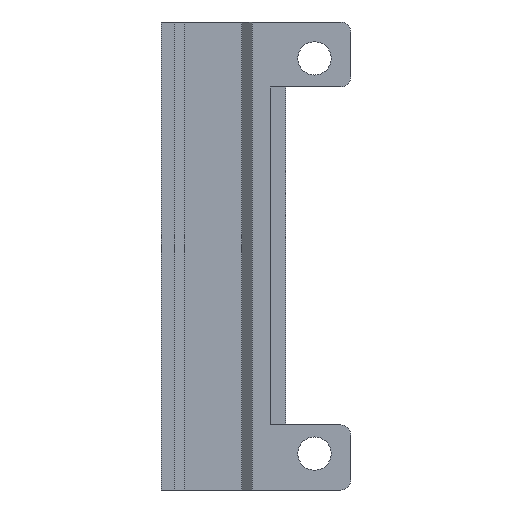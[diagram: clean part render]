
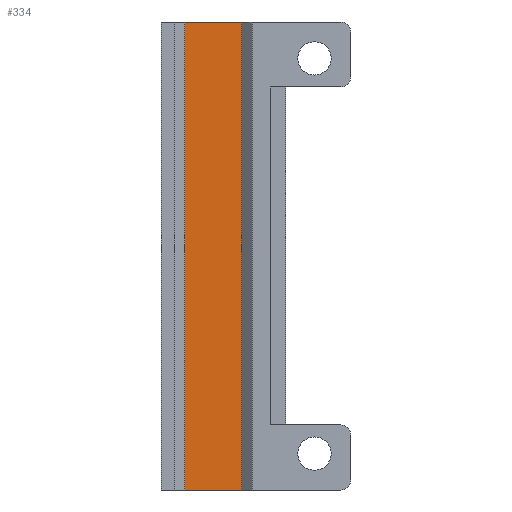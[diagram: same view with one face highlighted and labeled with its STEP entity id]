
A CAD part, front view. The second image highlights one B-rep face of the part: STEP entity #334.
In plain terms, the highlighted planar face has unit normal (0, -1, 0).
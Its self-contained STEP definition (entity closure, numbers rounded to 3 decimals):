
#3 = EDGE_LOOP ( 'NONE', ( #259, #427, #369, #924 ) ) ;
#24 = VECTOR ( 'NONE', #490, 1000. ) ;
#165 = DIRECTION ( 'NONE',  ( 1., 0., 0. ) ) ;
#210 = AXIS2_PLACEMENT_3D ( 'NONE', #946, #446, #1120 ) ;
#226 = CARTESIAN_POINT ( 'NONE',  ( -2.75, 4., 0. ) ) ;
#259 = ORIENTED_EDGE ( 'NONE', *, *, #327, .T. ) ;
#327 = EDGE_CURVE ( 'NONE', #1075, #1088, #661, .T. ) ;
#334 = ADVANCED_FACE ( 'NONE', ( #557 ), #767, .F. ) ;
#359 = LINE ( 'NONE', #746, #501 ) ;
#369 = ORIENTED_EDGE ( 'NONE', *, *, #588, .F. ) ;
#383 = EDGE_CURVE ( 'NONE', #403, #1075, #359, .T. ) ;
#403 = VERTEX_POINT ( 'NONE', #1128 ) ;
#427 = ORIENTED_EDGE ( 'NONE', *, *, #919, .F. ) ;
#446 = DIRECTION ( 'NONE',  ( 0., 1., 0. ) ) ;
#461 = DIRECTION ( 'NONE',  ( 0., 0., -1. ) ) ;
#490 = DIRECTION ( 'NONE',  ( 1., 0., 0. ) ) ;
#501 = VECTOR ( 'NONE', #461, 1000. ) ;
#557 = FACE_OUTER_BOUND ( 'NONE', #3, .T. ) ;
#588 = EDGE_CURVE ( 'NONE', #403, #1008, #1176, .T. ) ;
#590 = DIRECTION ( 'NONE',  ( 0., 0., -1. ) ) ;
#603 = VECTOR ( 'NONE', #165, 1000. ) ;
#661 = LINE ( 'NONE', #951, #603 ) ;
#668 = LINE ( 'NONE', #674, #1228 ) ;
#674 = CARTESIAN_POINT ( 'NONE',  ( 2.75, 4., 45. ) ) ;
#732 = CARTESIAN_POINT ( 'NONE',  ( 2.75, 4., 0. ) ) ;
#746 = CARTESIAN_POINT ( 'NONE',  ( -2.75, 4., 45. ) ) ;
#767 = PLANE ( 'NONE',  #210 ) ;
#785 = CARTESIAN_POINT ( 'NONE',  ( 2.75, 4., 45. ) ) ;
#919 = EDGE_CURVE ( 'NONE', #1008, #1088, #668, .T. ) ;
#924 = ORIENTED_EDGE ( 'NONE', *, *, #383, .T. ) ;
#946 = CARTESIAN_POINT ( 'NONE',  ( -2.75, 4., 45. ) ) ;
#951 = CARTESIAN_POINT ( 'NONE',  ( -2.75, 4., 0. ) ) ;
#971 = CARTESIAN_POINT ( 'NONE',  ( -2.75, 4., 45. ) ) ;
#1008 = VERTEX_POINT ( 'NONE', #785 ) ;
#1075 = VERTEX_POINT ( 'NONE', #226 ) ;
#1088 = VERTEX_POINT ( 'NONE', #732 ) ;
#1120 = DIRECTION ( 'NONE',  ( 0., 0., 1. ) ) ;
#1128 = CARTESIAN_POINT ( 'NONE',  ( -2.75, 4., 45. ) ) ;
#1176 = LINE ( 'NONE', #971, #24 ) ;
#1228 = VECTOR ( 'NONE', #590, 1000. ) ;
